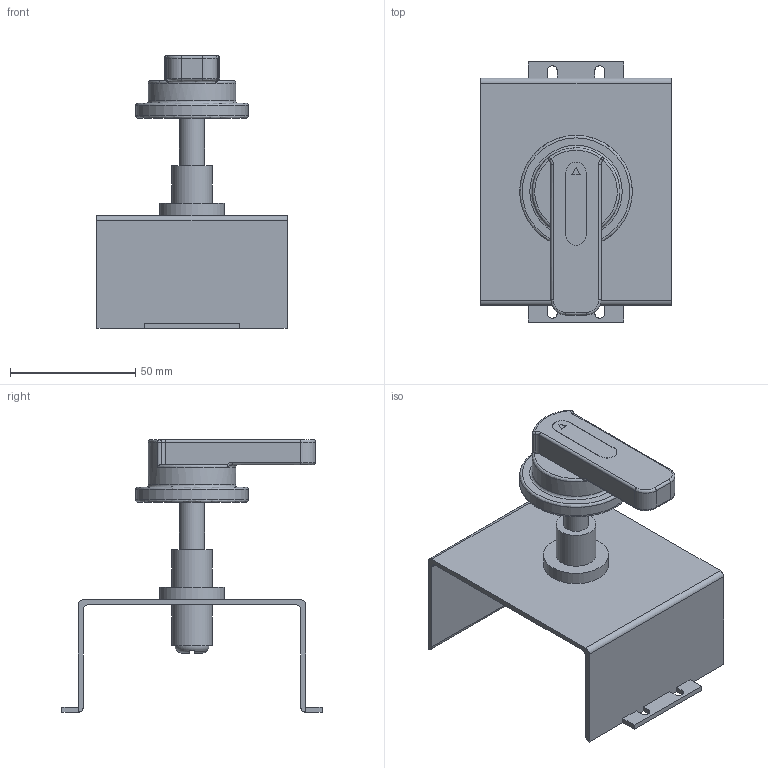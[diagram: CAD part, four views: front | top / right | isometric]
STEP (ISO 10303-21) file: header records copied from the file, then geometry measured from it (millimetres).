
FILE_DESCRIPTION(/* description */ (''),/* implementation_level */ '2;1');
FILE_NAME(/* name */ 'D:\2 ДОГОВОР ЧИНТ\NM1\Privod NM1-63.stp',/* time_stamp */ '2019-03-10T18:07:32+03:00',/* author */ ('RSagdiev'),/* organization */ (''),/* preprocessor_version */ 'ST-DEVELOPER v16.5',/* originating_system */ 'Autodesk Inventor 2017',/* authorisation */ '');
FILE_SCHEMA (('AUTOMOTIVE_DESIGN { 1 0 10303 214 3 1 1 }'));
Length unit declared in the file: millimetre
Products named in the file (1): Privod NM1-63
Bounding box: 76 x 104 x 109 mm (x, y, z)
Volume: 69347.1 mm3; surface area: 43329.7 mm2
Topology: 6 solids, 6 shells, 116 faces, 293 edges, 184 vertices
Faces by surface type: plane 64, cylinder 28, bspline 23, torus 1
Full cylindrical faces by diameter (mm): 10 x4, 14 x1, 16 x2, 26 x1, 35 x1, 45 x1
Entity records: 5262 total; most frequent: CARTESIAN_POINT 2532, ORIENTED_EDGE 556, DIRECTION 513, EDGE_CURVE 278, VERTEX_POINT 182, AXIS2_PLACEMENT_3D 178, LINE 157, VECTOR 157
